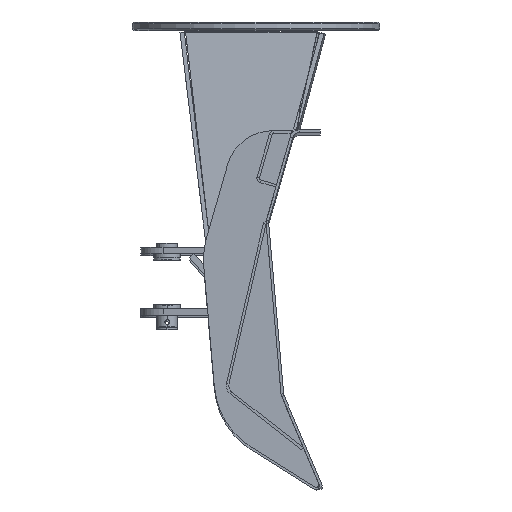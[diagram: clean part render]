
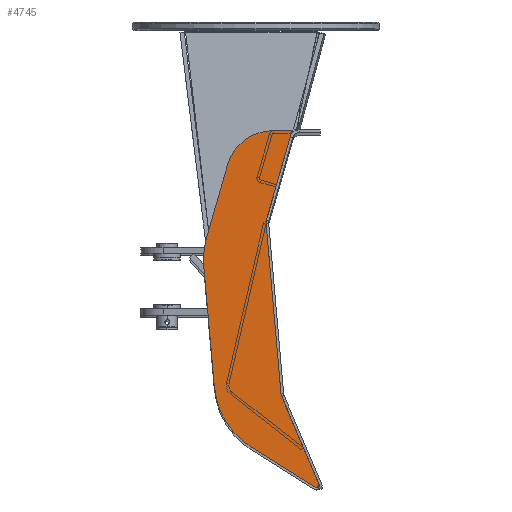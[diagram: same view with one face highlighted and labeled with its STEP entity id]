
A CAD part, top view. The second image highlights one B-rep face of the part: STEP entity #4745.
In plain terms, the highlighted planar face has unit normal (0, 0, 1).
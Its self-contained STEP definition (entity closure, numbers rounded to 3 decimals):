
#667 = CARTESIAN_POINT ( 'NONE',  ( -77.615, -601.033, 1198. ) ) ;
#762 = CARTESIAN_POINT ( 'NONE',  ( 1.793, -473.776, 1198. ) ) ;
#908 = VECTOR ( 'NONE', #9261, 1000. ) ;
#1226 = CARTESIAN_POINT ( 'NONE',  ( -24.807, -86.514, 1198. ) ) ;
#1320 = AXIS2_PLACEMENT_3D ( 'NONE', #3356, #2469, #6012 ) ;
#1503 = EDGE_CURVE ( 'NONE', #5887, #6555, #4941, .T. ) ;
#1540 = CARTESIAN_POINT ( 'NONE',  ( -36.41, 0., 1198. ) ) ;
#1682 = DIRECTION ( 'NONE',  ( 1., 0., 0. ) ) ;
#1699 = DIRECTION ( 'NONE',  ( 1., 0., 0. ) ) ;
#1773 = LINE ( 'NONE', #7446, #908 ) ;
#2196 = DIRECTION ( 'NONE',  ( 0., 0., 1. ) ) ;
#2268 = ORIENTED_EDGE ( 'NONE', *, *, #4731, .T. ) ;
#2354 = DIRECTION ( 'NONE',  ( -0.391, 0.921, 0. ) ) ;
#2469 = DIRECTION ( 'NONE',  ( 0., 0., -1. ) ) ;
#2555 = VERTEX_POINT ( 'NONE', #3643 ) ;
#2791 = EDGE_CURVE ( 'NONE', #5279, #8302, #1773, .T. ) ;
#3040 = VECTOR ( 'NONE', #10354, 1000. ) ;
#3138 = ORIENTED_EDGE ( 'NONE', *, *, #2791, .T. ) ;
#3207 = EDGE_CURVE ( 'NONE', #7684, #8514, #7766, .T. ) ;
#3356 = CARTESIAN_POINT ( 'NONE',  ( -18.226, -244.959, 1198. ) ) ;
#3485 = LINE ( 'NONE', #5272, #7738 ) ;
#3508 = DIRECTION ( 'NONE',  ( 1., 0., 0. ) ) ;
#3561 = CARTESIAN_POINT ( 'NONE',  ( -49.615, -173.027, 1198. ) ) ;
#3643 = CARTESIAN_POINT ( 'NONE',  ( 0., 0., 1198. ) ) ;
#3699 = CARTESIAN_POINT ( 'NONE',  ( 43.475, -676.593, 1198. ) ) ;
#3869 = ORIENTED_EDGE ( 'NONE', *, *, #4134, .T. ) ;
#4134 = EDGE_CURVE ( 'NONE', #6555, #10659, #8170, .T. ) ;
#4334 = VERTEX_POINT ( 'NONE', #4746 ) ;
#4378 = DIRECTION ( 'NONE',  ( 0., 0., 1. ) ) ;
#4604 = EDGE_CURVE ( 'NONE', #5635, #10659, #6602, .T. ) ;
#4625 = AXIS2_PLACEMENT_3D ( 'NONE', #11779, #4378, #1699 ) ;
#4630 = DIRECTION ( 'NONE',  ( -0.276, -0.961, 0. ) ) ;
#4694 = ORIENTED_EDGE ( 'NONE', *, *, #1503, .T. ) ;
#4731 = EDGE_CURVE ( 'NONE', #2555, #5887, #8886, .T. ) ;
#4745 = ADVANCED_FACE ( 'NONE', ( #9022 ), #6330, .T. ) ;
#4746 = CARTESIAN_POINT ( 'NONE',  ( -147.636, -486.85, 1198. ) ) ;
#4941 = CIRCLE ( 'NONE', #6051, 89.735 ) ;
#5057 = EDGE_CURVE ( 'NONE', #5635, #4334, #9595, .T. ) ;
#5272 = CARTESIAN_POINT ( 'NONE',  ( 14.935, -586.084, 1198. ) ) ;
#5279 = VERTEX_POINT ( 'NONE', #8884 ) ;
#5361 = EDGE_CURVE ( 'NONE', #8514, #5279, #3485, .T. ) ;
#5579 = EDGE_CURVE ( 'NONE', #6042, #7684, #11156, .T. ) ;
#5635 = VERTEX_POINT ( 'NONE', #6498 ) ;
#5783 = DIRECTION ( 'NONE',  ( 1., 0., 0. ) ) ;
#5809 = CARTESIAN_POINT ( 'NONE',  ( 50.724, -670.397, 1198. ) ) ;
#5887 = VERTEX_POINT ( 'NONE', #1540 ) ;
#6012 = DIRECTION ( 'NONE',  ( 1., 0., 0. ) ) ;
#6042 = VERTEX_POINT ( 'NONE', #667 ) ;
#6051 = AXIS2_PLACEMENT_3D ( 'NONE', #6777, #2196, #5783 ) ;
#6068 = DIRECTION ( 'NONE',  ( 0.276, 0.961, 0. ) ) ;
#6177 = CARTESIAN_POINT ( 'NONE',  ( -18.205, 0., 1198. ) ) ;
#6322 = VECTOR ( 'NONE', #4630, 1000. ) ;
#6330 = PLANE ( 'NONE',  #4625 ) ;
#6498 = CARTESIAN_POINT ( 'NONE',  ( -167.655, -258.033, 1198. ) ) ;
#6555 = VERTEX_POINT ( 'NONE', #9520 ) ;
#6592 = EDGE_CURVE ( 'NONE', #8302, #2555, #8694, .T. ) ;
#6602 = CIRCLE ( 'NONE', #1320, 150. ) ;
#6777 = CARTESIAN_POINT ( 'NONE',  ( -36.41, -89.735, 1198. ) ) ;
#7048 = DIRECTION ( 'NONE',  ( 0., 0., 1. ) ) ;
#7162 = DIRECTION ( 'NONE',  ( 0., 0., -1. ) ) ;
#7381 = CARTESIAN_POINT ( 'NONE',  ( -17.07, -638.813, 1198. ) ) ;
#7446 = CARTESIAN_POINT ( 'NONE',  ( -35.234, -337.399, 1198. ) ) ;
#7468 = ORIENTED_EDGE ( 'NONE', *, *, #3207, .T. ) ;
#7508 = EDGE_CURVE ( 'NONE', #6042, #4334, #8407, .T. ) ;
#7535 = ORIENTED_EDGE ( 'NONE', *, *, #4604, .F. ) ;
#7661 = ORIENTED_EDGE ( 'NONE', *, *, #7508, .F. ) ;
#7684 = VERTEX_POINT ( 'NONE', #3699 ) ;
#7738 = VECTOR ( 'NONE', #2354, 1000. ) ;
#7766 = CIRCLE ( 'NONE', #9636, 5. ) ;
#8032 = VECTOR ( 'NONE', #9665, 1000. ) ;
#8170 = LINE ( 'NONE', #10884, #6322 ) ;
#8278 = CARTESIAN_POINT ( 'NONE',  ( -157.646, -372.441, 1198. ) ) ;
#8287 = VECTOR ( 'NONE', #6068, 1000. ) ;
#8302 = VERTEX_POINT ( 'NONE', #3561 ) ;
#8407 = CIRCLE ( 'NONE', #8914, 150. ) ;
#8514 = VERTEX_POINT ( 'NONE', #5809 ) ;
#8518 = CARTESIAN_POINT ( 'NONE',  ( -162.415, -203.614, 1198. ) ) ;
#8694 = LINE ( 'NONE', #1226, #8287 ) ;
#8884 = CARTESIAN_POINT ( 'NONE',  ( -20.853, -501.771, 1198. ) ) ;
#8886 = LINE ( 'NONE', #6177, #8032 ) ;
#8914 = AXIS2_PLACEMENT_3D ( 'NONE', #762, #7162, #1682 ) ;
#9022 = FACE_OUTER_BOUND ( 'NONE', #11403, .T. ) ;
#9259 = DIRECTION ( 'NONE',  ( 0.087, -0.996, 0. ) ) ;
#9261 = DIRECTION ( 'NONE',  ( -0.087, 0.996, 0. ) ) ;
#9478 = ORIENTED_EDGE ( 'NONE', *, *, #6592, .T. ) ;
#9520 = CARTESIAN_POINT ( 'NONE',  ( -122.669, -65.001, 1198. ) ) ;
#9595 = LINE ( 'NONE', #8278, #9748 ) ;
#9636 = AXIS2_PLACEMENT_3D ( 'NONE', #9822, #7048, #3508 ) ;
#9665 = DIRECTION ( 'NONE',  ( -1., 0., 0. ) ) ;
#9748 = VECTOR ( 'NONE', #9259, 1000. ) ;
#9822 = CARTESIAN_POINT ( 'NONE',  ( 46.122, -672.351, 1198. ) ) ;
#10354 = DIRECTION ( 'NONE',  ( 0.848, -0.529, 0. ) ) ;
#10440 = ORIENTED_EDGE ( 'NONE', *, *, #5361, .T. ) ;
#10452 = ORIENTED_EDGE ( 'NONE', *, *, #5057, .T. ) ;
#10659 = VERTEX_POINT ( 'NONE', #8518 ) ;
#10884 = CARTESIAN_POINT ( 'NONE',  ( -142.542, -134.307, 1198. ) ) ;
#11156 = LINE ( 'NONE', #7381, #3040 ) ;
#11325 = ORIENTED_EDGE ( 'NONE', *, *, #5579, .T. ) ;
#11403 = EDGE_LOOP ( 'NONE', ( #11325, #7468, #10440, #3138, #9478, #2268, #4694, #3869, #7535, #10452, #7661 ) ) ;
#11779 = CARTESIAN_POINT ( 'NONE',  ( 0., 0., 1198. ) ) ;
